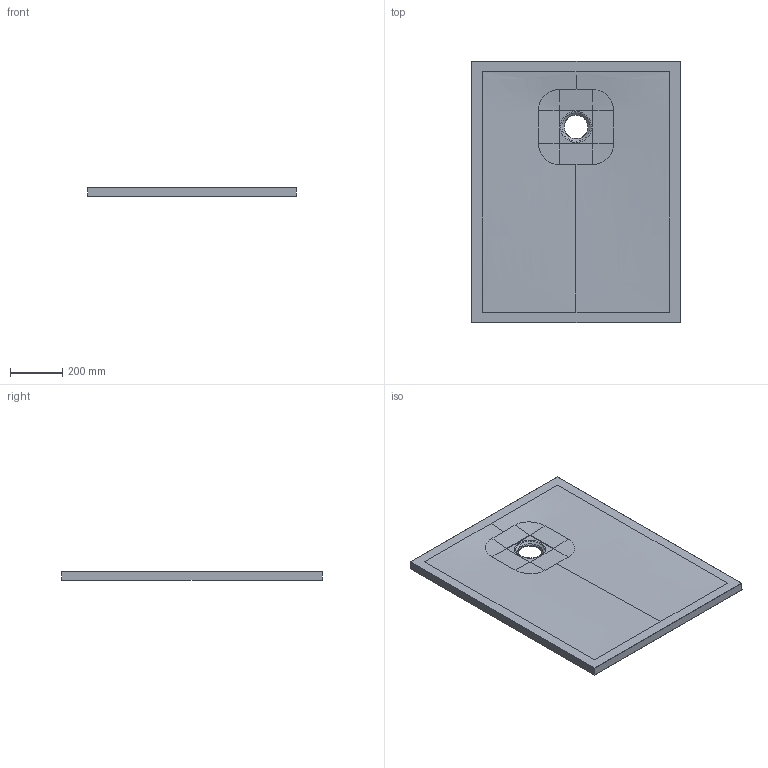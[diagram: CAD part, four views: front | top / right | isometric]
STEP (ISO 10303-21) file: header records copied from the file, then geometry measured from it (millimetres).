
FILE_DESCRIPTION(/* description */ (''),/* implementation_level */ '2;1');
FILE_NAME(/* name */ '1000X800.x_t.stp',/* time_stamp */ '2022-02-25T14:24:48+01:00',/* author */ (''),/* organization */ (''),/* preprocessor_version */ 'ST-DEVELOPER v18.1',/* originating_system */ 'SIEMENS PLM Software NX 1973',/* authorisation */ '');
FILE_SCHEMA (('AUTOMOTIVE_DESIGN { 1 0 10303 214 3 1 1 1 }'));
Length unit declared in the file: millimetre
Products named in the file (1): Cava2B7C939Cut5n
Bounding box: 799.98 x 999.98 x 33 mm (x, y, z)
Volume: 23194583.9 mm3; surface area: 1702885.4 mm2
Topology: 1 solids, 1 shells, 58 faces, 135 edges, 74 vertices
Faces by surface type: bspline 22, cylinder 14, plane 13, sphere 8, cone 1
Full cylindrical faces by diameter (mm): 8 x2
Entity records: 4285 total; most frequent: CARTESIAN_POINT 3186, ORIENTED_EDGE 246, DIRECTION 164, EDGE_CURVE 123, VERTEX_POINT 73, AXIS2_PLACEMENT_3D 70, B_SPLINE_CURVE_WITH_KNOTS 66, EDGE_LOOP 66
